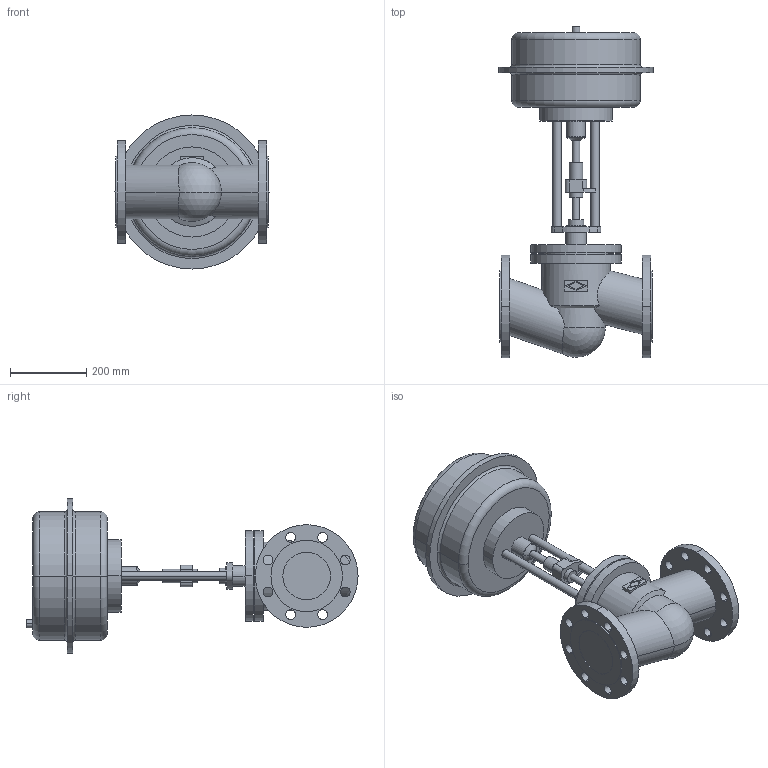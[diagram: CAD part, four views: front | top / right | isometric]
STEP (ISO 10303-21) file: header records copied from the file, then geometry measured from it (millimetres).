
FILE_DESCRIPTION(('OneSpaceDesigner STEP Export'),'2;1');
FILE_NAME('c000003117.stp','2007-01-16T10:28:52',(''),(''),'OneSpace Designer STEP processor for AP214 (Solid Model)','OneSpace Designer 14.00B 27-May-2006 (C) CoCreate Software GmbH','');
FILE_SCHEMA(('AUTOMOTIVE_DESIGN { 1 0 10303 214 1 1 1 1 }'));
Length unit declared in the file: millimetre
Products named in the file (2): 1; 2
Bounding box: 405 x 873 x 405 mm (x, y, z)
Volume: 32631381.1 mm3; surface area: 1155799.8 mm2
Topology: 2 solids, 2 shells, 172 faces, 412 edges, 269 vertices
Faces by surface type: cylinder 96, plane 60, torus 10, cone 4, sphere 2
Entity records: 4725 total; most frequent: CARTESIAN_POINT 1014, ORIENTED_EDGE 820, DIRECTION 669, EDGE_CURVE 410, VERTEX_POINT 269, AXIS2_PLACEMENT_3D 245, EDGE_LOOP 231, VECTOR 179
